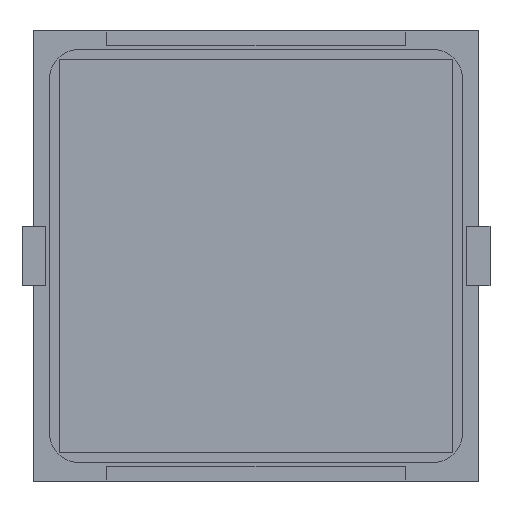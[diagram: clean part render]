
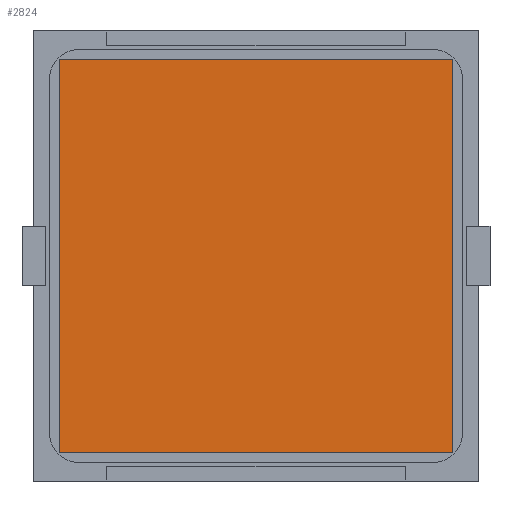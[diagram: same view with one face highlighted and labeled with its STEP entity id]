
A CAD part, front view. The second image highlights one B-rep face of the part: STEP entity #2824.
In plain terms, the highlighted planar face has unit normal (0, -1, 0).
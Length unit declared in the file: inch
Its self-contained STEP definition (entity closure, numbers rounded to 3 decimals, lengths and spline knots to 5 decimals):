
#145 = CARTESIAN_POINT ( 'NONE',  ( -0.64961, -0.005, 0.64961 ) ) ;
#360 = ORIENTED_EDGE ( 'NONE', *, *, #10493, .F. ) ;
#470 = VERTEX_POINT ( 'NONE', #6262 ) ;
#531 = VECTOR ( 'NONE', #5978, 39.37008 ) ;
#555 = CARTESIAN_POINT ( 'NONE',  ( -0.64961, -0.005, 0.64961 ) ) ;
#1071 = FACE_OUTER_BOUND ( 'NONE', #2436, .T. ) ;
#1282 = CARTESIAN_POINT ( 'NONE',  ( 0.64961, -0.005, -0.64961 ) ) ;
#1528 = ORIENTED_EDGE ( 'NONE', *, *, #7617, .F. ) ;
#1947 = DIRECTION ( 'NONE',  ( 0., 0., 1. ) ) ;
#2066 = DIRECTION ( 'NONE',  ( 1., 0., 0. ) ) ;
#2436 = EDGE_LOOP ( 'NONE', ( #1528, #360, #4377, #9540 ) ) ;
#2824 = ADVANCED_FACE ( 'NONE', ( #1071 ), #9997, .F. ) ;
#3242 = CARTESIAN_POINT ( 'NONE',  ( 0.64961, -0.005, -0.64961 ) ) ;
#3731 = CARTESIAN_POINT ( 'NONE',  ( -0.64961, -0.005, -0.64961 ) ) ;
#4307 = LINE ( 'NONE', #7649, #531 ) ;
#4377 = ORIENTED_EDGE ( 'NONE', *, *, #5413, .F. ) ;
#4508 = LINE ( 'NONE', #1282, #4746 ) ;
#4554 = DIRECTION ( 'NONE',  ( 0., 0., -1. ) ) ;
#4588 = VERTEX_POINT ( 'NONE', #145 ) ;
#4746 = VECTOR ( 'NONE', #4554, 39.37008 ) ;
#5356 = VECTOR ( 'NONE', #6092, 39.37008 ) ;
#5392 = EDGE_CURVE ( 'NONE', #4588, #470, #5415, .T. ) ;
#5413 = EDGE_CURVE ( 'NONE', #470, #7487, #4508, .T. ) ;
#5415 = LINE ( 'NONE', #555, #8047 ) ;
#5978 = DIRECTION ( 'NONE',  ( -1., 0., 0. ) ) ;
#6092 = DIRECTION ( 'NONE',  ( 0., 0., 1. ) ) ;
#6262 = CARTESIAN_POINT ( 'NONE',  ( 0.64961, -0.005, 0.64961 ) ) ;
#7469 = CARTESIAN_POINT ( 'NONE',  ( -0.64961, -0.005, 0.64961 ) ) ;
#7487 = VERTEX_POINT ( 'NONE', #3242 ) ;
#7617 = EDGE_CURVE ( 'NONE', #8645, #4588, #7718, .T. ) ;
#7649 = CARTESIAN_POINT ( 'NONE',  ( -0.64961, -0.005, -0.64961 ) ) ;
#7718 = LINE ( 'NONE', #3731, #5356 ) ;
#8047 = VECTOR ( 'NONE', #2066, 39.37008 ) ;
#8205 = AXIS2_PLACEMENT_3D ( 'NONE', #7469, #9347, #1947 ) ;
#8645 = VERTEX_POINT ( 'NONE', #9174 ) ;
#9174 = CARTESIAN_POINT ( 'NONE',  ( -0.64961, -0.005, -0.64961 ) ) ;
#9347 = DIRECTION ( 'NONE',  ( 0., 1., 0. ) ) ;
#9540 = ORIENTED_EDGE ( 'NONE', *, *, #5392, .F. ) ;
#9997 = PLANE ( 'NONE',  #8205 ) ;
#10493 = EDGE_CURVE ( 'NONE', #7487, #8645, #4307, .T. ) ;
